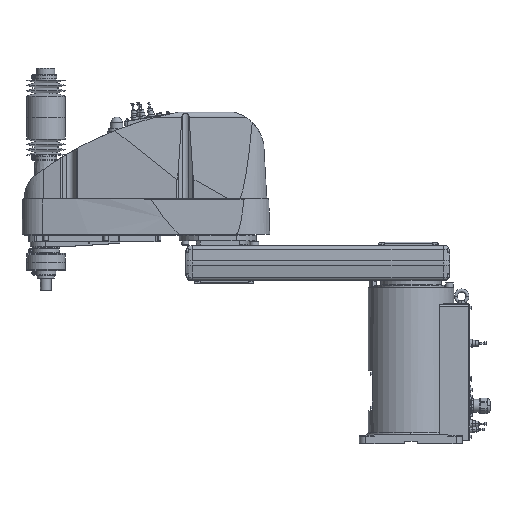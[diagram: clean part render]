
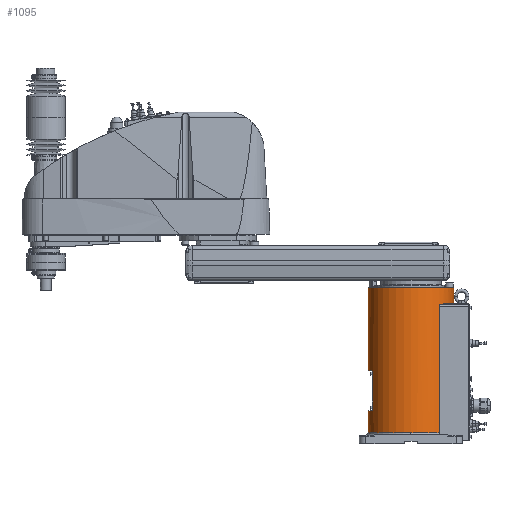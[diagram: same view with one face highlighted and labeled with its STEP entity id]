
A CAD part, top view. The second image highlights one B-rep face of the part: STEP entity #1095.
In plain terms, the highlighted cylindrical face has radius 100 mm (diameter 200 mm), a partial arc.
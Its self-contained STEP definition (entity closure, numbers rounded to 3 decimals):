
#1095 = ADVANCED_FACE( '', ( #3972 ), #3973, .T. );
#3972 = FACE_OUTER_BOUND( '', #8443, .T. );
#3973 = CYLINDRICAL_SURFACE( '', #8444, 100. );
#8443 = EDGE_LOOP( '', ( #16735, #16736, #16737, #16738, #16739, #16740, #16741, #16742, #16743, #16744, #16745, #16746, #16747, #16748, #16749, #16750 ) );
#8444 = AXIS2_PLACEMENT_3D( '', #16751, #16752, #16753 );
#16735 = ORIENTED_EDGE( '', *, *, #27849, .T. );
#16736 = ORIENTED_EDGE( '', *, *, #28645, .F. );
#16737 = ORIENTED_EDGE( '', *, *, #27863, .T. );
#16738 = ORIENTED_EDGE( '', *, *, #28780, .T. );
#16739 = ORIENTED_EDGE( '', *, *, #28778, .T. );
#16740 = ORIENTED_EDGE( '', *, *, #28768, .T. );
#16741 = ORIENTED_EDGE( '', *, *, #27859, .T. );
#16742 = ORIENTED_EDGE( '', *, *, #28280, .T. );
#16743 = ORIENTED_EDGE( '', *, *, #28277, .T. );
#16744 = ORIENTED_EDGE( '', *, *, #28922, .T. );
#16745 = ORIENTED_EDGE( '', *, *, #28886, .T. );
#16746 = ORIENTED_EDGE( '', *, *, #28928, .T. );
#16747 = ORIENTED_EDGE( '', *, *, #29415, .T. );
#16748 = ORIENTED_EDGE( '', *, *, #29416, .T. );
#16749 = ORIENTED_EDGE( '', *, *, #29417, .T. );
#16750 = ORIENTED_EDGE( '', *, *, #29418, .T. );
#16751 = CARTESIAN_POINT( '', ( 0., 194., 0. ) );
#16752 = DIRECTION( '', ( 0., -1., 0. ) );
#16753 = DIRECTION( '', ( 1., 0., 0. ) );
#27849 = EDGE_CURVE( '', #33021, #33022, #33023, .T. );
#27859 = EDGE_CURVE( '', #33042, #33040, #33043, .T. );
#27863 = EDGE_CURVE( '', #33050, #33048, #33051, .T. );
#28277 = EDGE_CURVE( '', #33828, #33833, #33835, .T. );
#28280 = EDGE_CURVE( '', #33040, #33828, #33839, .T. );
#28645 = EDGE_CURVE( '', #33050, #33022, #34436, .T. );
#28768 = EDGE_CURVE( '', #34636, #33042, #34637, .T. );
#28778 = EDGE_CURVE( '', #34655, #34636, #34656, .T. );
#28780 = EDGE_CURVE( '', #33048, #34655, #34658, .T. );
#28886 = EDGE_CURVE( '', #34825, #34823, #34826, .T. );
#28922 = EDGE_CURVE( '', #33833, #34825, #34890, .T. );
#28928 = EDGE_CURVE( '', #34823, #34897, #34899, .T. );
#29415 = EDGE_CURVE( '', #34897, #35588, #35589, .T. );
#29416 = EDGE_CURVE( '', #35588, #35590, #35591, .T. );
#29417 = EDGE_CURVE( '', #35590, #35592, #35593, .T. );
#29418 = EDGE_CURVE( '', #35592, #33021, #35594, .T. );
#33021 = VERTEX_POINT( '', #41455 );
#33022 = VERTEX_POINT( '', #41456 );
#33023 = LINE( '', #41457, #41458 );
#33040 = VERTEX_POINT( '', #41495 );
#33042 = VERTEX_POINT( '', #41497 );
#33043 = LINE( '', #41498, #41499 );
#33048 = VERTEX_POINT( '', #41505 );
#33050 = VERTEX_POINT( '', #41507 );
#33051 = LINE( '', #41508, #41509 );
#33828 = VERTEX_POINT( '', #42542 );
#33833 = VERTEX_POINT( '', #42547 );
#33835 = CIRCLE( '', #42576, 100. );
#33839 = CIRCLE( '', #42580, 100. );
#34436 = CIRCLE( '', #43509, 100. );
#34636 = VERTEX_POINT( '', #43822 );
#34637 = CIRCLE( '', #43823, 100. );
#34655 = VERTEX_POINT( '', #43850 );
#34656 = LINE( '', #43851, #43852 );
#34658 = CIRCLE( '', #43855, 100. );
#34823 = VERTEX_POINT( '', #44110 );
#34825 = VERTEX_POINT( '', #44113 );
#34826 = B_SPLINE_CURVE_WITH_KNOTS( '', 3, ( #44114, #44115, #44116, #44117, #44118, #44119, #44120, #44121, #44122, #44123, #44124, #44125, #44126, #44127, #44128, #44129, #44130, #44131 ), .UNSPECIFIED., .F., .F., ( 4, 2, 2, 2, 2, 2, 2, 2, 4 ), ( 14.722, 15.472, 16.222, 16.971, 17.721, 18.842, 19.962, 21.082, 22.202 ), .UNSPECIFIED. );
#34890 = LINE( '', #44229, #44230 );
#34897 = VERTEX_POINT( '', #44241 );
#34899 = CIRCLE( '', #44244, 100. );
#35588 = VERTEX_POINT( '', #45293 );
#35589 = LINE( '', #45294, #45295 );
#35590 = VERTEX_POINT( '', #45296 );
#35591 = CIRCLE( '', #45297, 100. );
#35592 = VERTEX_POINT( '', #45298 );
#35593 = LINE( '', #45299, #45300 );
#35594 = CIRCLE( '', #45301, 100. );
#41455 = CARTESIAN_POINT( '', ( 100., 324., 0. ) );
#41456 = CARTESIAN_POINT( '', ( 100., 363., 0. ) );
#41457 = CARTESIAN_POINT( '', ( 100., 194., 0. ) );
#41458 = VECTOR( '', #55174, 1. );
#41495 = CARTESIAN_POINT( '', ( -100., 25., 0. ) );
#41497 = CARTESIAN_POINT( '', ( -100., 76.7, 0. ) );
#41498 = CARTESIAN_POINT( '', ( -100., 194., 0. ) );
#41499 = VECTOR( '', #55193, 1. );
#41505 = CARTESIAN_POINT( '', ( -100., 169.7, 0. ) );
#41507 = CARTESIAN_POINT( '', ( -100., 363., 0. ) );
#41508 = CARTESIAN_POINT( '', ( -100., 194., 0. ) );
#41509 = VECTOR( '', #55201, 1. );
#42542 = CARTESIAN_POINT( '', ( 0., 25., 100. ) );
#42547 = CARTESIAN_POINT( '', ( 66.144, 25., 75. ) );
#42576 = AXIS2_PLACEMENT_3D( '', #56004, #56005, #56006 );
#42580 = AXIS2_PLACEMENT_3D( '', #56013, #56014, #56015 );
#43509 = AXIS2_PLACEMENT_3D( '', #56444, #56445, #56446 );
#43822 = CARTESIAN_POINT( '', ( -88., 76.7, 47.497 ) );
#43823 = AXIS2_PLACEMENT_3D( '', #56638, #56639, #56640 );
#43850 = CARTESIAN_POINT( '', ( -88., 169.7, 47.497 ) );
#43851 = CARTESIAN_POINT( '', ( -88., 123.2, 47.497 ) );
#43852 = VECTOR( '', #56650, 1. );
#43855 = AXIS2_PLACEMENT_3D( '', #56652, #56653, #56654 );
#44110 = CARTESIAN_POINT( '', ( 70.42, 324., 71. ) );
#44113 = CARTESIAN_POINT( '', ( 66.144, 320., 75. ) );
#44114 = CARTESIAN_POINT( '', ( 66.144, 320., 75. ) );
#44115 = CARTESIAN_POINT( '', ( 66.144, 320.25, 75. ) );
#44116 = CARTESIAN_POINT( '', ( 66.171, 320.503, 74.976 ) );
#44117 = CARTESIAN_POINT( '', ( 66.277, 320.995, 74.882 ) );
#44118 = CARTESIAN_POINT( '', ( 66.356, 321.234, 74.812 ) );
#44119 = CARTESIAN_POINT( '', ( 66.555, 321.685, 74.636 ) );
#44120 = CARTESIAN_POINT( '', ( 66.674, 321.897, 74.529 ) );
#44121 = CARTESIAN_POINT( '', ( 66.938, 322.284, 74.292 ) );
#44122 = CARTESIAN_POINT( '', ( 67.082, 322.458, 74.162 ) );
#44123 = CARTESIAN_POINT( '', ( 67.446, 322.842, 73.831 ) );
#44124 = CARTESIAN_POINT( '', ( 67.688, 323.046, 73.61 ) );
#44125 = CARTESIAN_POINT( '', ( 68.203, 323.396, 73.134 ) );
#44126 = CARTESIAN_POINT( '', ( 68.475, 323.543, 72.879 ) );
#44127 = CARTESIAN_POINT( '', ( 69.031, 323.776, 72.352 ) );
#44128 = CARTESIAN_POINT( '', ( 69.316, 323.861, 72.08 ) );
#44129 = CARTESIAN_POINT( '', ( 69.877, 323.974, 71.535 ) );
#44130 = CARTESIAN_POINT( '', ( 70.155, 324., 71.263 ) );
#44131 = CARTESIAN_POINT( '', ( 70.42, 324., 71. ) );
#44229 = CARTESIAN_POINT( '', ( 66.144, 172.5, 75. ) );
#44230 = VECTOR( '', #56825, 1. );
#44241 = CARTESIAN_POINT( '', ( 75.993, 324., 65. ) );
#44244 = AXIS2_PLACEMENT_3D( '', #56831, #56832, #56833 );
#45293 = CARTESIAN_POINT( '', ( 75.993, 326., 65. ) );
#45294 = CARTESIAN_POINT( '', ( 75.993, 325., 65. ) );
#45295 = VECTOR( '', #57742, 1. );
#45296 = CARTESIAN_POINT( '', ( 89.303, 326., 45. ) );
#45297 = AXIS2_PLACEMENT_3D( '', #57743, #57744, #57745 );
#45298 = CARTESIAN_POINT( '', ( 89.303, 324., 45. ) );
#45299 = CARTESIAN_POINT( '', ( 89.303, 325., 45. ) );
#45300 = VECTOR( '', #57746, 1. );
#45301 = AXIS2_PLACEMENT_3D( '', #57747, #57748, #57749 );
#55174 = DIRECTION( '', ( 0., 1., 0. ) );
#55193 = DIRECTION( '', ( 0., -1., 0. ) );
#55201 = DIRECTION( '', ( 0., -1., 0. ) );
#56004 = CARTESIAN_POINT( '', ( 0., 25., 0. ) );
#56005 = DIRECTION( '', ( 0., 1., 0. ) );
#56006 = DIRECTION( '', ( 1., 0., 0. ) );
#56013 = CARTESIAN_POINT( '', ( 0., 25., 0. ) );
#56014 = DIRECTION( '', ( 0., 1., 0. ) );
#56015 = DIRECTION( '', ( 1., 0., 0. ) );
#56444 = CARTESIAN_POINT( '', ( 0., 363., 0. ) );
#56445 = DIRECTION( '', ( 0., 1., 0. ) );
#56446 = DIRECTION( '', ( 1., 0., 0. ) );
#56638 = CARTESIAN_POINT( '', ( 0., 76.7, 0. ) );
#56639 = DIRECTION( '', ( 0., -1., 0. ) );
#56640 = DIRECTION( '', ( 1., 0., 0. ) );
#56650 = DIRECTION( '', ( 0., -1., 0. ) );
#56652 = CARTESIAN_POINT( '', ( 0., 169.7, 0. ) );
#56653 = DIRECTION( '', ( 0., 1., 0. ) );
#56654 = DIRECTION( '', ( 1., 0., 0. ) );
#56825 = DIRECTION( '', ( 0., 1., 0. ) );
#56831 = CARTESIAN_POINT( '', ( 0., 324., 0. ) );
#56832 = DIRECTION( '', ( 0., 1., 0. ) );
#56833 = DIRECTION( '', ( 1., 0., 0. ) );
#57742 = DIRECTION( '', ( 0., 1., 0. ) );
#57743 = CARTESIAN_POINT( '', ( 0., 326., 0. ) );
#57744 = DIRECTION( '', ( 0., 1., 0. ) );
#57745 = DIRECTION( '', ( 1., 0., 0. ) );
#57746 = DIRECTION( '', ( 0., -1., 0. ) );
#57747 = CARTESIAN_POINT( '', ( 0., 324., 0. ) );
#57748 = DIRECTION( '', ( 0., 1., 0. ) );
#57749 = DIRECTION( '', ( 1., 0., 0. ) );
